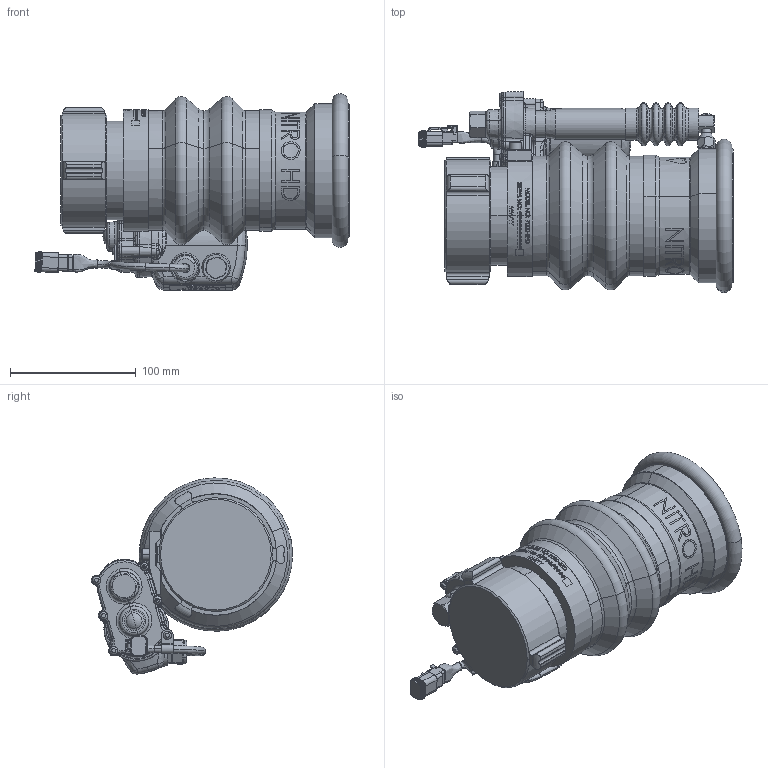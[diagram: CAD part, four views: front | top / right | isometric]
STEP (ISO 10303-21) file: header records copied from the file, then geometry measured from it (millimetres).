
FILE_DESCRIPTION (( 'STEP AP203' ), '1' );
FILE_NAME ('7000-EHD Nozzle.STEP', '2017-08-24T16:45:43', ( 'eb' ), ( '' ), 'SwSTEP 2.0', 'SolidWorks 2017', '' );
FILE_SCHEMA (( 'CONFIG_CONTROL_DESIGN' ));
Products named in the file (1): 7000-EHD Nozzle
Bounding box: 250.24 x 160.27 x 156.34 mm (x, y, z)
Volume: 2116939.3 mm3; surface area: 157567.6 mm2
Topology: 2 solids, 2 shells, 2041 faces, 5358 edges, 3399 vertices
Faces by surface type: plane 797, bspline 511, cylinder 353, torus 190, cone 161, sphere 29
Entity records: 105745 total; most frequent: CARTESIAN_POINT 58171, ORIENTED_EDGE 10654, DIRECTION 8912, EDGE_CURVE 5327, VERTEX_POINT 3398, AXIS2_PLACEMENT_3D 3319, VECTOR 2274, LINE 2274
